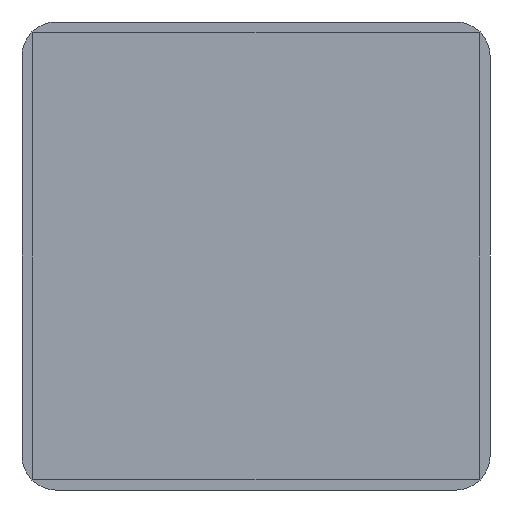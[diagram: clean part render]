
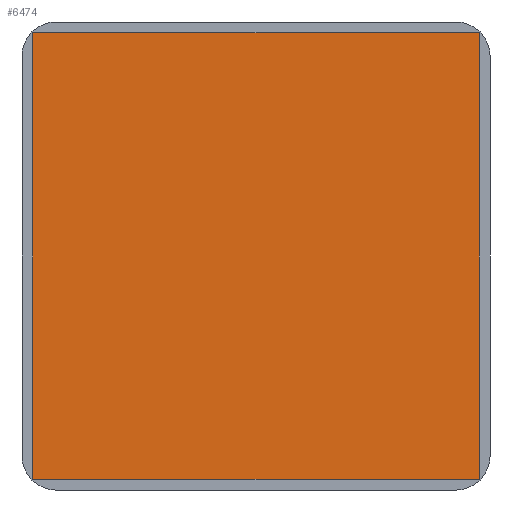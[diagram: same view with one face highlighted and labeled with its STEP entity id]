
A CAD part, front view. The second image highlights one B-rep face of the part: STEP entity #6474.
In plain terms, the highlighted planar face has unit normal (0, -1, 0).
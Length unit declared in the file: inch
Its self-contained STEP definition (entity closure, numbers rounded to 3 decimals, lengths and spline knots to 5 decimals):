
#175 = DIRECTION ( 'NONE',  ( 0., 0., 1. ) ) ;
#191 = EDGE_CURVE ( 'NONE', #3311, #5710, #6871, .T. ) ;
#221 = CARTESIAN_POINT ( 'NONE',  ( -0.64961, -0.005, 0.64961 ) ) ;
#250 = VERTEX_POINT ( 'NONE', #6453 ) ;
#267 = DIRECTION ( 'NONE',  ( -1., 0., 0. ) ) ;
#592 = LINE ( 'NONE', #4944, #6917 ) ;
#647 = EDGE_CURVE ( 'NONE', #5697, #250, #592, .T. ) ;
#1008 = EDGE_CURVE ( 'NONE', #250, #3311, #7800, .T. ) ;
#1210 = FACE_OUTER_BOUND ( 'NONE', #6625, .T. ) ;
#1395 = VECTOR ( 'NONE', #5922, 39.37008 ) ;
#1875 = DIRECTION ( 'NONE',  ( 0., 0., -1. ) ) ;
#1991 = EDGE_CURVE ( 'NONE', #5710, #5697, #2789, .T. ) ;
#2187 = DIRECTION ( 'NONE',  ( 0., 1., 0. ) ) ;
#2420 = CARTESIAN_POINT ( 'NONE',  ( 0.64961, -0.005, 0.64961 ) ) ;
#2789 = LINE ( 'NONE', #3439, #7374 ) ;
#2969 = ORIENTED_EDGE ( 'NONE', *, *, #1008, .F. ) ;
#3087 = AXIS2_PLACEMENT_3D ( 'NONE', #221, #2187, #175 ) ;
#3311 = VERTEX_POINT ( 'NONE', #2420 ) ;
#3439 = CARTESIAN_POINT ( 'NONE',  ( -0.64961, -0.005, -0.64961 ) ) ;
#3763 = VECTOR ( 'NONE', #1875, 39.37008 ) ;
#4224 = DIRECTION ( 'NONE',  ( 0., 0., 1. ) ) ;
#4511 = ORIENTED_EDGE ( 'NONE', *, *, #1991, .F. ) ;
#4944 = CARTESIAN_POINT ( 'NONE',  ( -0.64961, -0.005, -0.64961 ) ) ;
#5174 = CARTESIAN_POINT ( 'NONE',  ( -0.64961, -0.005, 0.64961 ) ) ;
#5639 = PLANE ( 'NONE',  #3087 ) ;
#5697 = VERTEX_POINT ( 'NONE', #7165 ) ;
#5710 = VERTEX_POINT ( 'NONE', #6586 ) ;
#5901 = ORIENTED_EDGE ( 'NONE', *, *, #191, .F. ) ;
#5922 = DIRECTION ( 'NONE',  ( 1., 0., 0. ) ) ;
#6135 = CARTESIAN_POINT ( 'NONE',  ( 0.64961, -0.005, -0.64961 ) ) ;
#6431 = ORIENTED_EDGE ( 'NONE', *, *, #647, .F. ) ;
#6453 = CARTESIAN_POINT ( 'NONE',  ( -0.64961, -0.005, 0.64961 ) ) ;
#6474 = ADVANCED_FACE ( 'NONE', ( #1210 ), #5639, .F. ) ;
#6586 = CARTESIAN_POINT ( 'NONE',  ( 0.64961, -0.005, -0.64961 ) ) ;
#6625 = EDGE_LOOP ( 'NONE', ( #6431, #4511, #5901, #2969 ) ) ;
#6871 = LINE ( 'NONE', #6135, #3763 ) ;
#6917 = VECTOR ( 'NONE', #4224, 39.37008 ) ;
#7165 = CARTESIAN_POINT ( 'NONE',  ( -0.64961, -0.005, -0.64961 ) ) ;
#7374 = VECTOR ( 'NONE', #267, 39.37008 ) ;
#7800 = LINE ( 'NONE', #5174, #1395 ) ;
